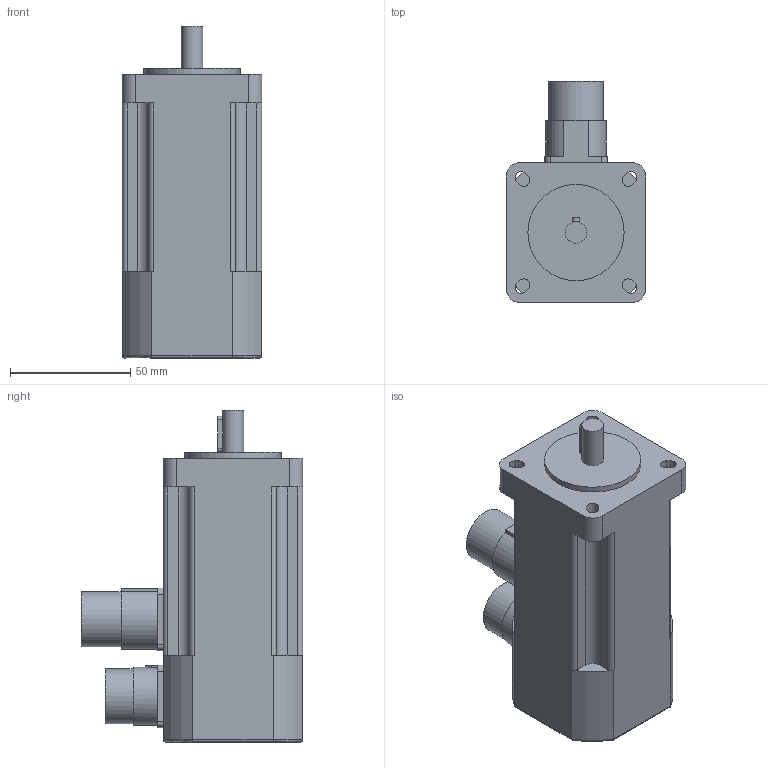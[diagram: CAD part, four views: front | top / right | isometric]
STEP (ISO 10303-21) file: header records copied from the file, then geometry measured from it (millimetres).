
FILE_DESCRIPTION(/* description */ (''),/* implementation_level */ '2;1');
FILE_NAME(/* name */ '\\Lafnas01\disegni\Archivi Lafert\3D\CAD 3D\MODELLI\Assiemi clienti\Serad\Modelli 3D Serad\B28I\Resolver\Res Without Brake\B28D2Ixx4A050033.ipt.stp',/* time_stamp */ '2015-09-07T10:48:15+02:00',/* author */ ('Pastrello Ylenia'),/* organization */ (''),/* preprocessor_version */ 'ST-DEVELOPER v15.6',/* originating_system */ 'Autodesk Inventor 2015',/* authorisation */ '');
FILE_SCHEMA (('AUTOMOTIVE_DESIGN { 1 0 10303 214 3 1 1 }'));
Length unit declared in the file: millimetre
Products named in the file (1): B28D2Ixx4A050033
Bounding box: 58 x 92 x 138 mm (x, y, z)
Volume: 383388 mm3; surface area: 38745 mm2
Topology: 1 solids, 1 shells, 133 faces, 356 edges, 231 vertices
Faces by surface type: plane 71, cylinder 58, torus 4
Full cylindrical faces by diameter (mm): 9 x1, 22.7 x2, 24 x1, 40 x1
Entity records: 4247 total; most frequent: CARTESIAN_POINT 847, DIRECTION 719, ORIENTED_EDGE 696, EDGE_CURVE 347, AXIS2_PLACEMENT_3D 250, VERTEX_POINT 228, LINE 219, VECTOR 219
